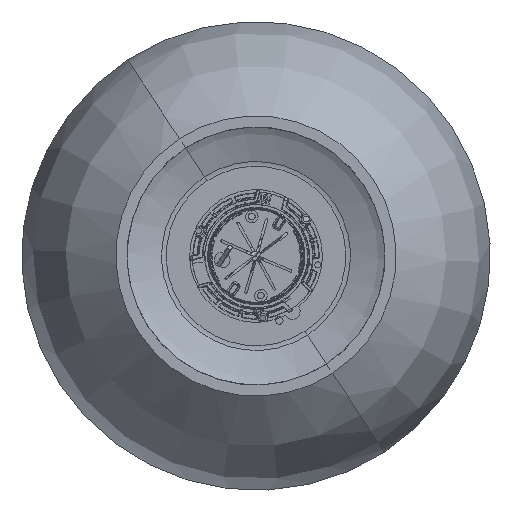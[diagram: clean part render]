
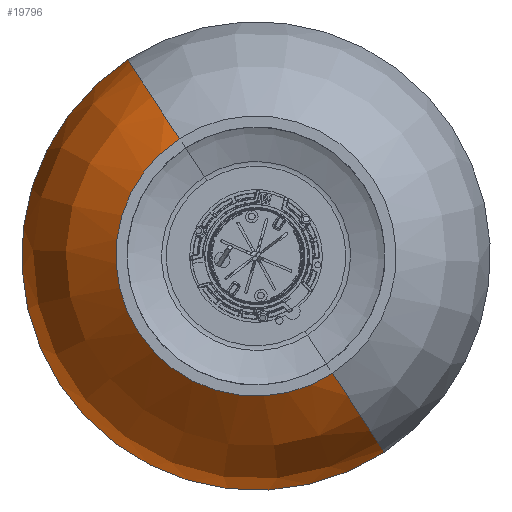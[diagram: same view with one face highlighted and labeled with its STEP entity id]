
A CAD part, front view. The second image highlights one B-rep face of the part: STEP entity #19796.
In plain terms, the highlighted toroidal (fillet/blend) face has major radius 23.109 mm and minor radius 127 mm.
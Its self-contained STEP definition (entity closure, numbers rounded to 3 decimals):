
#211 = CARTESIAN_POINT ( 'NONE',  ( 49.084, -229.8, -75.129 ) ) ;
#1213 = CIRCLE ( 'NONE', #25808, 127. ) ;
#2327 = EDGE_CURVE ( 'NONE', #3798, #17981, #1213, .T. ) ;
#3798 = VERTEX_POINT ( 'NONE', #25777 ) ;
#6284 = EDGE_CURVE ( 'NONE', #43231, #17981, #49439, .T. ) ;
#9360 = CARTESIAN_POINT ( 'NONE',  ( -49.084, -229.8, 75.129 ) ) ;
#9557 = DIRECTION ( 'NONE',  ( 0.837, 0., 0.547 ) ) ;
#11431 = ORIENTED_EDGE ( 'NONE', *, *, #6284, .T. ) ;
#13242 = ORIENTED_EDGE ( 'NONE', *, *, #60580, .T. ) ;
#14381 = TOROIDAL_SURFACE ( 'NONE', #52842, 23.109, 127. ) ;
#16819 = AXIS2_PLACEMENT_3D ( 'NONE', #64380, #46909, #48356 ) ;
#16865 = DIRECTION ( 'NONE',  ( -0.547, 0., 0.837 ) ) ;
#17596 = CARTESIAN_POINT ( 'NONE',  ( 0., -121.684, 0. ) ) ;
#17981 = VERTEX_POINT ( 'NONE', #9360 ) ;
#19796 = ADVANCED_FACE ( 'NONE', ( #71520 ), #14381, .T. ) ;
#21950 = DIRECTION ( 'NONE',  ( 0., -1., 0. ) ) ;
#22675 = CARTESIAN_POINT ( 'NONE',  ( 0., -121.684, 0. ) ) ;
#23615 = DIRECTION ( 'NONE',  ( -0.837, 0., -0.547 ) ) ;
#25777 = CARTESIAN_POINT ( 'NONE',  ( -82.101, -121.684, 125.666 ) ) ;
#25808 = AXIS2_PLACEMENT_3D ( 'NONE', #65778, #9557, #54125 ) ;
#34397 = ORIENTED_EDGE ( 'NONE', *, *, #53547, .T. ) ;
#36806 = AXIS2_PLACEMENT_3D ( 'NONE', #17596, #72284, #16865 ) ;
#40207 = ORIENTED_EDGE ( 'NONE', *, *, #2327, .F. ) ;
#40711 = CIRCLE ( 'NONE', #61649, 127. ) ;
#43231 = VERTEX_POINT ( 'NONE', #211 ) ;
#43442 = DIRECTION ( 'NONE',  ( -0.547, 0., 0.837 ) ) ;
#46909 = DIRECTION ( 'NONE',  ( 0., 1., 0. ) ) ;
#48356 = DIRECTION ( 'NONE',  ( -0.547, 0., 0.837 ) ) ;
#49439 = CIRCLE ( 'NONE', #16819, 89.742 ) ;
#49769 = CARTESIAN_POINT ( 'NONE',  ( 82.101, -121.684, -125.666 ) ) ;
#50944 = DIRECTION ( 'NONE',  ( -0.547, 0., 0.837 ) ) ;
#52842 = AXIS2_PLACEMENT_3D ( 'NONE', #22675, #21950, #43442 ) ;
#53547 = EDGE_CURVE ( 'NONE', #63807, #43231, #40711, .T. ) ;
#54125 = DIRECTION ( 'NONE',  ( 0.547, 0., -0.837 ) ) ;
#55325 = CARTESIAN_POINT ( 'NONE',  ( 12.639, -121.684, -19.346 ) ) ;
#56530 = CIRCLE ( 'NONE', #36806, 150.109 ) ;
#60580 = EDGE_CURVE ( 'NONE', #3798, #63807, #56530, .T. ) ;
#61649 = AXIS2_PLACEMENT_3D ( 'NONE', #55325, #23615, #50944 ) ;
#63807 = VERTEX_POINT ( 'NONE', #49769 ) ;
#64380 = CARTESIAN_POINT ( 'NONE',  ( 0., -229.8, 0. ) ) ;
#65778 = CARTESIAN_POINT ( 'NONE',  ( -12.639, -121.684, 19.346 ) ) ;
#67496 = EDGE_LOOP ( 'NONE', ( #13242, #34397, #11431, #40207 ) ) ;
#71520 = FACE_OUTER_BOUND ( 'NONE', #67496, .T. ) ;
#72284 = DIRECTION ( 'NONE',  ( 0., -1., 0. ) ) ;
